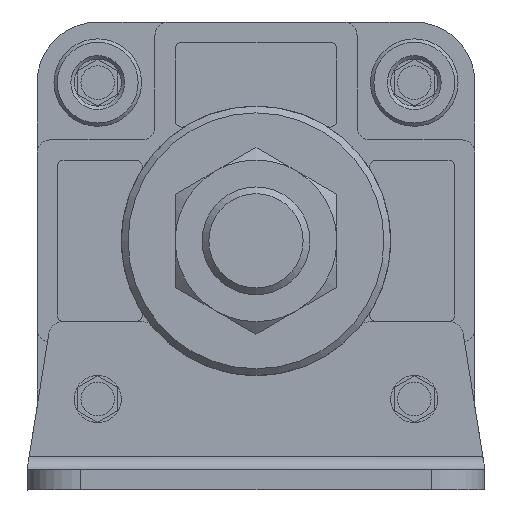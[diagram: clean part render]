
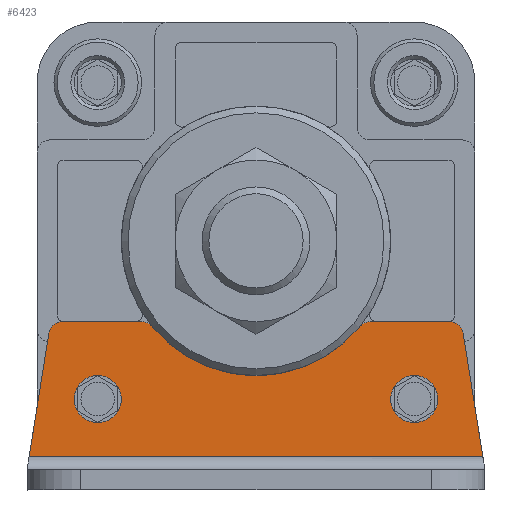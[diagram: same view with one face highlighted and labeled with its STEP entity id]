
A CAD part, front view. The second image highlights one B-rep face of the part: STEP entity #6423.
In plain terms, the highlighted planar face has unit normal (0, -1, 0).
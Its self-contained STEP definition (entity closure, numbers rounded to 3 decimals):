
#430=LINE('',#9686,#788);
#434=LINE('',#9697,#792);
#438=LINE('',#9710,#796);
#442=LINE('',#9719,#800);
#446=LINE('',#9737,#804);
#788=VECTOR('',#8285,1000.);
#792=VECTOR('',#8293,1000.);
#796=VECTOR('',#8305,1000.);
#800=VECTOR('',#8311,1000.);
#804=VECTOR('',#8329,1000.);
#2063=ORIENTED_EDGE('',*,*,#2812,.T.);
#2064=ORIENTED_EDGE('',*,*,#2813,.T.);
#2065=ORIENTED_EDGE('',*,*,#2797,.T.);
#2066=ORIENTED_EDGE('',*,*,#2814,.T.);
#2067=ORIENTED_EDGE('',*,*,#2799,.T.);
#2068=ORIENTED_EDGE('',*,*,#2815,.T.);
#2069=ORIENTED_EDGE('',*,*,#2803,.T.);
#2070=ORIENTED_EDGE('',*,*,#2816,.T.);
#2071=ORIENTED_EDGE('',*,*,#2807,.T.);
#2072=ORIENTED_EDGE('',*,*,#2817,.T.);
#2073=ORIENTED_EDGE('',*,*,#2792,.T.);
#2074=ORIENTED_EDGE('',*,*,#2818,.T.);
#2792=EDGE_CURVE('',#3280,#3279,#430,.T.);
#2797=EDGE_CURVE('',#3285,#3284,#434,.T.);
#2799=EDGE_CURVE('',#3286,#3287,#3560,.T.);
#2803=EDGE_CURVE('',#3290,#3291,#438,.T.);
#2807=EDGE_CURVE('',#3294,#3295,#442,.T.);
#2812=EDGE_CURVE('',#3299,#3299,#3562,.T.);
#2813=EDGE_CURVE('',#3300,#3300,#3563,.T.);
#2814=EDGE_CURVE('',#3284,#3286,#3564,.F.);
#2815=EDGE_CURVE('',#3287,#3290,#3565,.F.);
#2816=EDGE_CURVE('',#3291,#3294,#3566,.F.);
#2817=EDGE_CURVE('',#3295,#3280,#446,.T.);
#2818=EDGE_CURVE('',#3279,#3285,#3567,.F.);
#3279=VERTEX_POINT('',#9685);
#3280=VERTEX_POINT('',#9687);
#3284=VERTEX_POINT('',#9696);
#3285=VERTEX_POINT('',#9698);
#3286=VERTEX_POINT('',#9702);
#3287=VERTEX_POINT('',#9703);
#3290=VERTEX_POINT('',#9711);
#3291=VERTEX_POINT('',#9712);
#3294=VERTEX_POINT('',#9720);
#3295=VERTEX_POINT('',#9721);
#3299=VERTEX_POINT('',#9731);
#3300=VERTEX_POINT('',#9733);
#3560=CIRCLE('',#6957,20.);
#3562=CIRCLE('',#6963,3.5);
#3563=CIRCLE('',#6964,3.5);
#3564=CIRCLE('',#6965,2.);
#3565=CIRCLE('',#6966,2.);
#3566=CIRCLE('',#6967,2.);
#3567=CIRCLE('',#6968,2.);
#3921=EDGE_LOOP('',(#2063));
#3922=EDGE_LOOP('',(#2064));
#3923=EDGE_LOOP('',(#2065,#2066,#2067,#2068,#2069,#2070,#2071,#2072,#2073,
#2074));
#4301=FACE_BOUND('',#3921,.T.);
#4302=FACE_BOUND('',#3922,.T.);
#4303=FACE_BOUND('',#3923,.T.);
#4489=PLANE('',#6962);
#6423=ADVANCED_FACE('',(#4301,#4302,#4303),#4489,.F.);
#6957=AXIS2_PLACEMENT_3D('',#9701,#8297,#8298);
#6962=AXIS2_PLACEMENT_3D('',#9729,#8317,#8318);
#6963=AXIS2_PLACEMENT_3D('',#9730,#8319,#8320);
#6964=AXIS2_PLACEMENT_3D('',#9732,#8321,#8322);
#6965=AXIS2_PLACEMENT_3D('',#9734,#8323,#8324);
#6966=AXIS2_PLACEMENT_3D('',#9735,#8325,#8326);
#6967=AXIS2_PLACEMENT_3D('',#9736,#8327,#8328);
#6968=AXIS2_PLACEMENT_3D('',#9738,#8330,#8331);
#8285=DIRECTION('',(-0.157,0.,0.988));
#8293=DIRECTION('',(-1.,0.,0.));
#8297=DIRECTION('',(0.,1.,0.));
#8298=DIRECTION('',(1.,0.,0.));
#8305=DIRECTION('',(-1.,0.,0.));
#8311=DIRECTION('',(-0.157,0.,-0.988));
#8317=DIRECTION('',(0.,1.,0.));
#8318=DIRECTION('',(0.,0.,1.));
#8319=DIRECTION('',(0.,1.,0.));
#8320=DIRECTION('',(1.,0.,0.));
#8321=DIRECTION('',(0.,1.,0.));
#8322=DIRECTION('',(1.,0.,0.));
#8323=DIRECTION('',(0.,1.,0.));
#8324=DIRECTION('',(0.,0.,1.));
#8325=DIRECTION('',(0.,1.,0.));
#8326=DIRECTION('',(0.,0.,1.));
#8327=DIRECTION('',(0.,1.,0.));
#8328=DIRECTION('',(0.,0.,1.));
#8329=DIRECTION('',(1.,0.,0.));
#8330=DIRECTION('',(0.,1.,0.));
#8331=DIRECTION('',(0.,0.,1.));
#9685=CARTESIAN_POINT('',(30.768,-3.,-13.686));
#9686=CARTESIAN_POINT('',(30.5,-3.,-12.));
#9687=CARTESIAN_POINT('',(33.682,-3.,-32.));
#9696=CARTESIAN_POINT('',(16.971,-3.,-12.));
#9697=CARTESIAN_POINT('',(16.,-3.,-12.));
#9698=CARTESIAN_POINT('',(28.793,-3.,-12.));
#9701=CARTESIAN_POINT('',(0.,-3.,0.));
#9702=CARTESIAN_POINT('',(15.428,-3.,-12.727));
#9703=CARTESIAN_POINT('',(-15.428,-3.,-12.727));
#9710=CARTESIAN_POINT('',(-16.,-3.,-12.));
#9711=CARTESIAN_POINT('',(-16.971,-3.,-12.));
#9712=CARTESIAN_POINT('',(-28.793,-3.,-12.));
#9719=CARTESIAN_POINT('',(-30.5,-3.,-12.));
#9720=CARTESIAN_POINT('',(-30.768,-3.,-13.686));
#9721=CARTESIAN_POINT('',(-33.682,-3.,-32.));
#9729=CARTESIAN_POINT('',(0.,-3.,0.));
#9730=CARTESIAN_POINT('',(23.5,-3.,-23.5));
#9731=CARTESIAN_POINT('',(27.,-3.,-23.5));
#9732=CARTESIAN_POINT('',(-23.5,-3.,-23.5));
#9733=CARTESIAN_POINT('',(-20.,-3.,-23.5));
#9734=CARTESIAN_POINT('',(16.971,-3.,-14.));
#9735=CARTESIAN_POINT('',(-16.971,-3.,-14.));
#9736=CARTESIAN_POINT('',(-28.793,-3.,-14.));
#9737=CARTESIAN_POINT('',(0.,-3.,-32.));
#9738=CARTESIAN_POINT('',(28.793,-3.,-14.));
